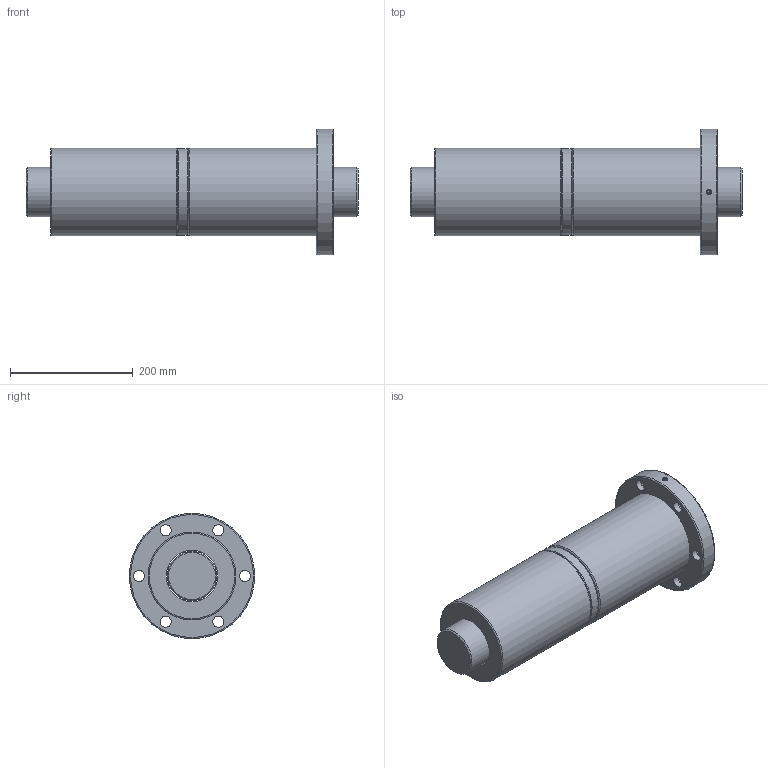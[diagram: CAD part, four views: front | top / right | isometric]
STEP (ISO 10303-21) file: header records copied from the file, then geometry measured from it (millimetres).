
FILE_DESCRIPTION(/* description */ ('Unknown','CAx-IF Rec.Pracs.---Representation and Presentation of Product Manufacturing Information (PMI)---4.0---2014-10-13','CAx-IF Rec.Pracs.---3D Tessellated Geometry---0.4---2014-09-14','2;1'),/* implementation_level */ '2;1');
FILE_NAME(/* name */ 'DFV08020',/* time_stamp */ '2020-12-08T12:09:01+08:00',/* author */ ('Unknown'),/* organization */ ('Unknown'),/* preprocessor_version */ 'ST-DEVELOPER v16.7',/* originating_system */ 'Solid Edge',/* authorisation */ 'Unknown');
FILE_SCHEMA (('AP242_MANAGED_MODEL_BASED_3D_ENGINEERING_MIM_LF { 1 0 10303 442 1 1 4 }'));
Length unit declared in the file: millimetre
Products named in the file (1): DFV08020
Bounding box: 540 x 204 x 204 mm (x, y, z)
Volume: 7932834.3 mm3; surface area: 544196.1 mm2
Topology: 2 solids, 2 shells, 48 faces, 94 edges, 59 vertices
Faces by surface type: cylinder 22, plane 14, torus 7, cone 3, bspline 2
Full cylindrical faces by diameter (mm): 4 x1, 6.917 x1, 18 x6, 26 x6, 80 x1, 84 x1, 141 x1, 143 x2, 204 x1
Entity records: 2998 total; most frequent: CARTESIAN_POINT 2026, DIRECTION 200, ORIENTED_EDGE 122, EDGE_LOOP 103, FACE_BOUND 103, AXIS2_PLACEMENT_3D 101, EDGE_CURVE 61, VERTEX_POINT 56
